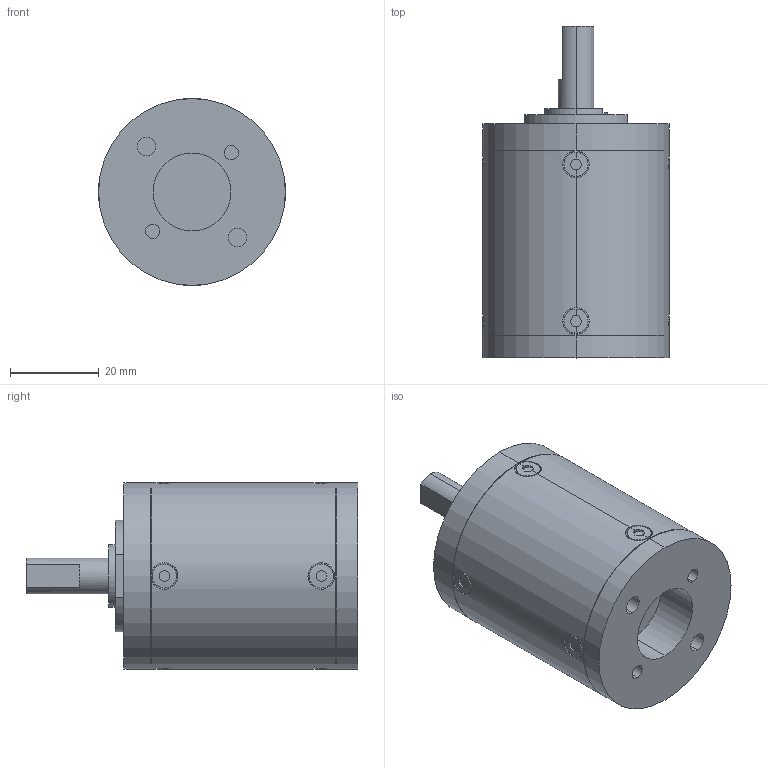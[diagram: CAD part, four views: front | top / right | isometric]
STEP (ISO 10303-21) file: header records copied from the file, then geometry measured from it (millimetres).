
FILE_DESCRIPTION (( 'STEP AP203' ), '1' );
FILE_NAME ('IG-42H-4stage.STEP', '2023-05-16T00:34:48', ( '' ), ( '' ), 'SwSTEP 2.0', 'SolidWorks 2019', '' );
FILE_SCHEMA (( 'CONFIG_CONTROL_DESIGN' ));
Length unit declared in the file: millimetre
Products named in the file (1): IG-42H-4stage
Bounding box: 42 x 74.6 x 42 mm (x, y, z)
Volume: 71720.8 mm3; surface area: 11918.3 mm2
Topology: 1 solids, 1 shells, 172 faces, 413 edges, 272 vertices
Faces by surface type: plane 93, cylinder 75, cone 4
Entity records: 6048 total; most frequent: CARTESIAN_POINT 2008, ORIENTED_EDGE 826, DIRECTION 813, EDGE_CURVE 413, AXIS2_PLACEMENT_3D 305, VERTEX_POINT 272, LINE 203, VECTOR 203
